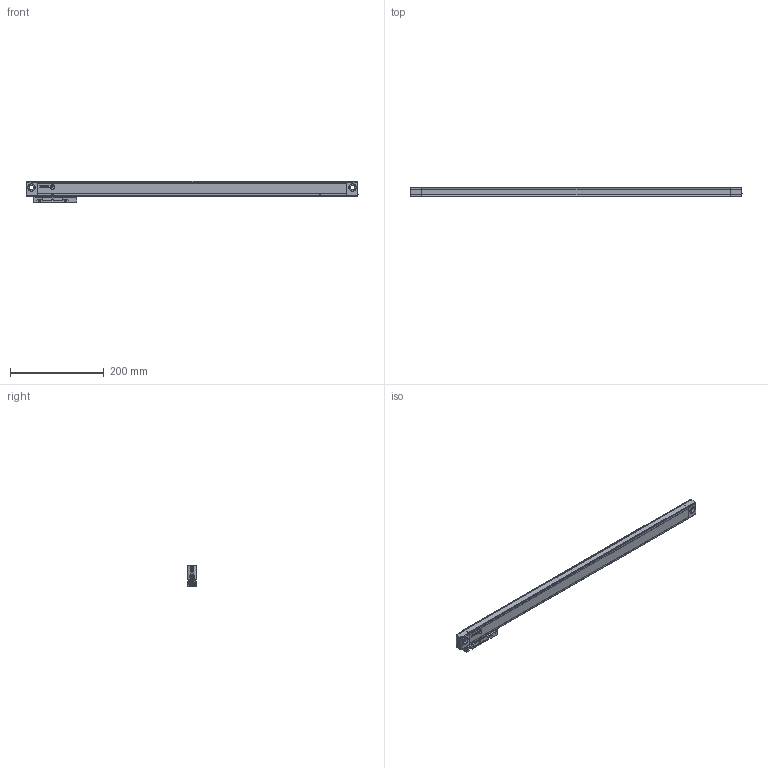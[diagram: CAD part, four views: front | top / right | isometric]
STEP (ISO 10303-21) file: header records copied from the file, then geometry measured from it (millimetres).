
FILE_DESCRIPTION(('Creo Elements/Direct Modeling STEP Export'),'2;1');
FILE_NAME('S3-570-T_V01.stp','2025-06-03T14:15:14',(''),(''),'Creo Elements/Direct Modeling STEP processor for AP214 (Solid Model)','Creo Elements/Direct Modeling 20.4A 18-Oct-2021 (C) Parametric Technology GmbH','');
FILE_SCHEMA(('AUTOMOTIVE_DESIGN { 1 0 10303 214 1 1 1 1 }'));
Length unit declared in the file: millimetre
Products named in the file (4): REGLA; CABEZA-T; S3-570-T_V01; S3-570-T_V01.stp
Assembly tree (3 placements, depth 3):
  S3-570-T_V01.stp
    S3-570-T_V01
      CABEZA-T
      REGLA
Bounding box: 708 x 18.3 x 46.2 mm (x, y, z)
Volume: 392203.3 mm3; surface area: 103617.9 mm2
Topology: 2 solids, 15 shells, 2148 faces, 6583 edges, 4546 vertices
Faces by surface type: plane 1148, cylinder 581, cone 230, bspline 135, torus 47, sphere 6, extrusion 1
Entity records: 89361 total; most frequent: CARTESIAN_POINT 31542, ORIENTED_EDGE 13092, DIRECTION 10564, EDGE_CURVE 6546, VERTEX_POINT 4546, VECTOR 4392, LINE 4391, AXIS2_PLACEMENT_3D 3086
